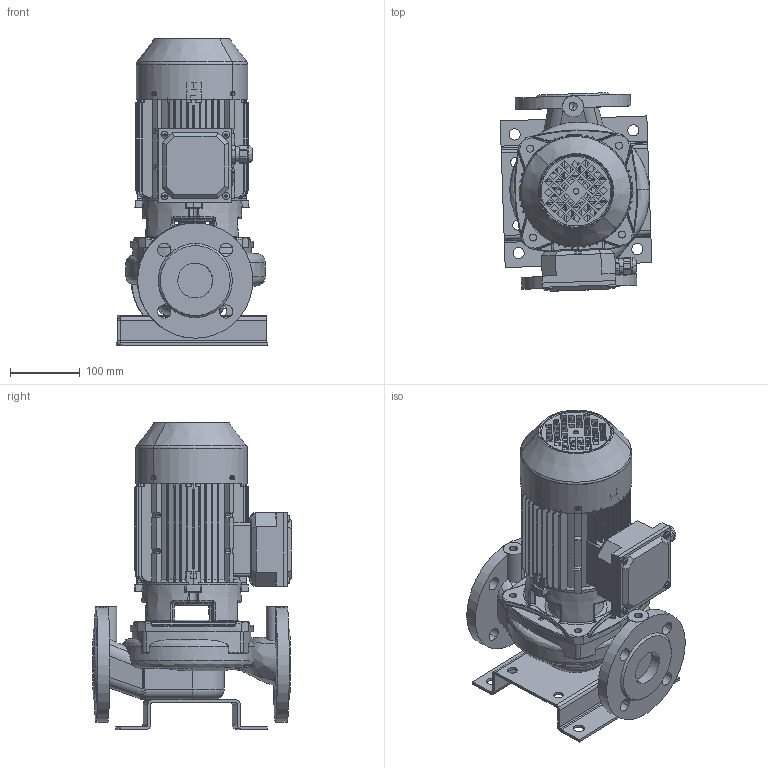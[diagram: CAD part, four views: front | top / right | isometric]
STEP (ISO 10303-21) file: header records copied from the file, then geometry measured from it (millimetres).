
FILE_DESCRIPTION(('STEP AP214'),'1');
FILE_NAME('export.stp','2018-05-29T06:08:56',(' '),(' '),'Spatial InterOp 3D',' ',' ');
FILE_SCHEMA(('AUTOMOTIVE_DESIGN { 1 0 10303 214 1 1 1 1 }'));
Length unit declared in the file: millimetre
Products named in the file (26): W_L50B2110_KP80F1; V_TLL50ABC; V_PPL50ABC; V_JALKA35973; 160031; 160001; V_MKP80-2_F15; M5x8_DIN; DIN_7985-M5X8; 160141; M5x12_DIN; DIN_7985-M5X12; 160137; 160138; 160139; 160140; Koura_Ale_M5; Plug_Blind_M20; Sealing_Plug_M20; plain_washer_grade_a_din_Washer_; 160039___; 160040___; 160133
Assembly tree (28 placements, depth 5):
  W_L50B2110_KP80F1
    V_TLL50ABC
    V_PPL50ABC
    V_JALKA35973
    V_MKP80-2_F15
      160031
        160001
      160141
        M5x8_DIN
          DIN_7985-M5X8
        M5x12_DIN
          DIN_7985-M5X12
        M5x12_DIN
          DIN_7985-M5X12
        M5x12_DIN
          DIN_7985-M5X12
        M5x12_DIN
          DIN_7985-M5X12
        160137
        160138
        160139
        160140
        Koura_Ale_M5
        Plug_Blind_M20
        Sealing_Plug_M20
        plain_washer_grade_a_din_Washer_
      160039___
      160040___
      160133
Bounding box: 217 x 284.44 x 439.5 mm (x, y, z)
Volume: 4160607.5 mm3; surface area: 1086110.2 mm2
Topology: 20 solids, 20 shells, 2780 faces, 7277 edges, 4525 vertices
Faces by surface type: plane 1022, cylinder 865, bspline 345, torus 320, cone 161, sphere 67
Entity records: 110223 total; most frequent: CARTESIAN_POINT 41952, ORIENTED_EDGE 14146, DIRECTION 13094, EDGE_CURVE 7073, AXIS2_PLACEMENT_3D 5053, VERTEX_POINT 4429, EDGE_LOOP 3040, LINE 2988
